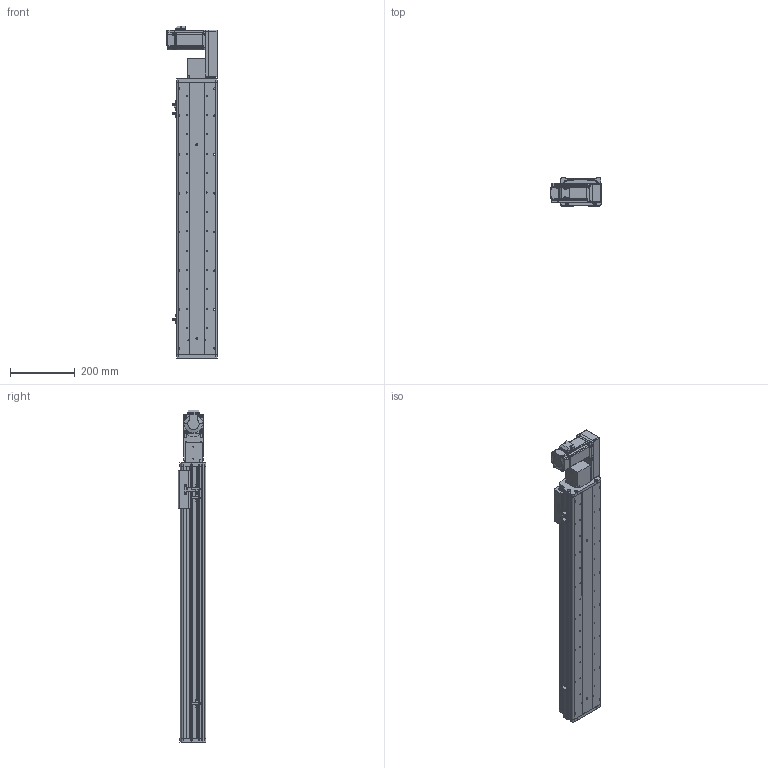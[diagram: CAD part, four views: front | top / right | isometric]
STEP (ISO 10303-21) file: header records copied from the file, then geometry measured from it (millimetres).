
FILE_DESCRIPTION (( 'STEP AP214' ), '1' );
FILE_NAME ('KSD125B-S650-MLB-CM.STEP', '2017-10-21T01:41:35', ( '微软用户' ), ( '微软中国' ), 'SwSTEP 2.0', 'SolidWorks 2014', '' );
FILE_SCHEMA (( 'AUTOMOTIVE_DESIGN' ));
Length unit declared in the file: millimetre
Products named in the file (17): 悵誘欶奻狟殏; HTPA30S3M150_A_H6_a萇儂蚚; HTPA30S3M150_A_H6_a佪裝蚚; 100宽马达安装板连板上下折丝杆同步带; 100宽马达安装板同步带左; KSD125模组650行程同步带-防尘盖; 125模组650行程同步带-底板; MHMD042G1CA_2_03; KSD125模组同步带-防撞垫2; 覜茼え68遵圉猾敕; U倰嫖萇假蚾璃; U倰嫖萇EEㄜSX672; KSD125模组同步带-防撞垫1; 前端板-125宽模组同步带; 125模组同步带-尾端板1; KSD125模组同步带-滑动座1; KSD125B-S650-MLB-CM
Assembly tree (20 placements, depth 2):
  KSD125B-S650-MLB-CM
    KSD125模组同步带-滑动座1
    125模组同步带-尾端板1
    前端板-125宽模组同步带
    KSD125模组同步带-防撞垫1
    U倰嫖萇EEㄜSX672  x3
    U倰嫖萇假蚾璃  x3
    覜茼え68遵圉猾敕
    KSD125模组同步带-防撞垫2
    MHMD042G1CA_2_03
    125模组650行程同步带-底板
    KSD125模组650行程同步带-防尘盖
    100宽马达安装板同步带左
    100宽马达安装板连板上下折丝杆同步带
    HTPA30S3M150_A_H6_a佪裝蚚
    HTPA30S3M150_A_H6_a萇儂蚚
    悵誘欶奻狟殏
Bounding box: 155 x 86 x 1028 mm (x, y, z)
Volume: 2989801.9 mm3; surface area: 1027032.5 mm2
Topology: 19 solids, 22 shells, 2267 faces, 6565 edges, 4338 vertices
Faces by surface type: cylinder 1416, plane 724, cone 105, bspline 22
Entity records: 80459 total; most frequent: CARTESIAN_POINT 15915, DIRECTION 12514, ORIENTED_EDGE 11650, EDGE_CURVE 5903, AXIS2_PLACEMENT_3D 4833, VERTEX_POINT 3930, LINE 2848, VECTOR 2848
